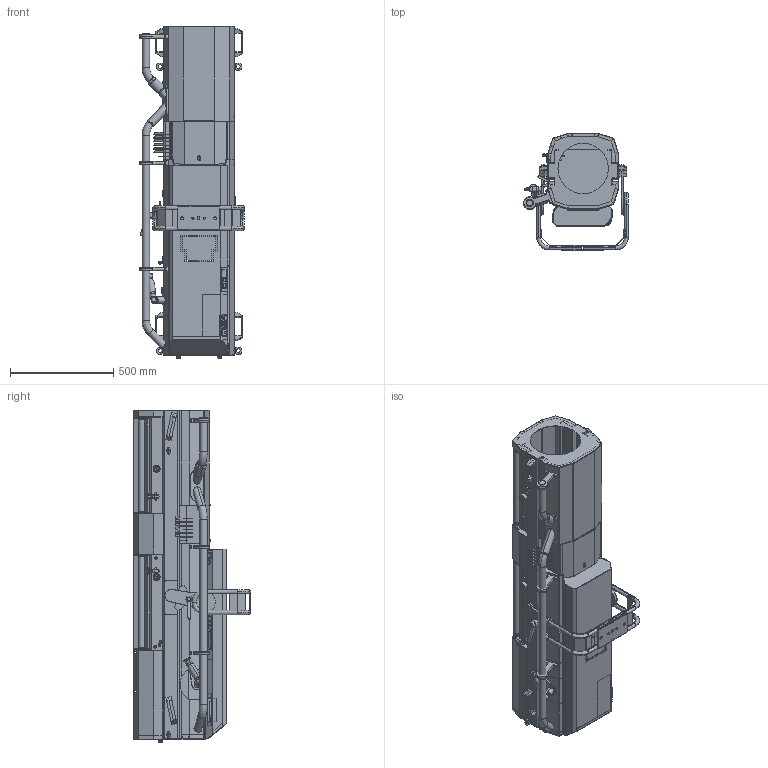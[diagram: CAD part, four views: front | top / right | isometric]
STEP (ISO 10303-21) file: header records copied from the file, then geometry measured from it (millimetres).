
FILE_DESCRIPTION (( 'STEP AP203' ), '1' );
FILE_NAME ('Env 3D - XP65NN Merlin.STEP', '2015-02-02T12:32:05', ( '' ), ( '' ), 'SwSTEP 2.0', 'SolidWorks 2015', '' );
FILE_SCHEMA (( 'CONFIG_CONTROL_DESIGN' ));
Products named in the file (1): Env 3D - XP65NN Merlin
Bounding box: 507.52 x 566.93 x 1608.4 mm (x, y, z)
Volume: 11864132.1 mm3; surface area: 10570877 mm2
Topology: 135 solids, 135 shells, 5279 faces, 12893 edges, 7955 vertices
Faces by surface type: plane 3783, cylinder 1019, cone 205, bspline 147, torus 119, sphere 6
Entity records: 159183 total; most frequent: CARTESIAN_POINT 33736, ORIENTED_EDGE 25770, DIRECTION 25225, EDGE_CURVE 12885, LINE 10043, VECTOR 10043, VERTEX_POINT 7955, AXIS2_PLACEMENT_3D 7591
